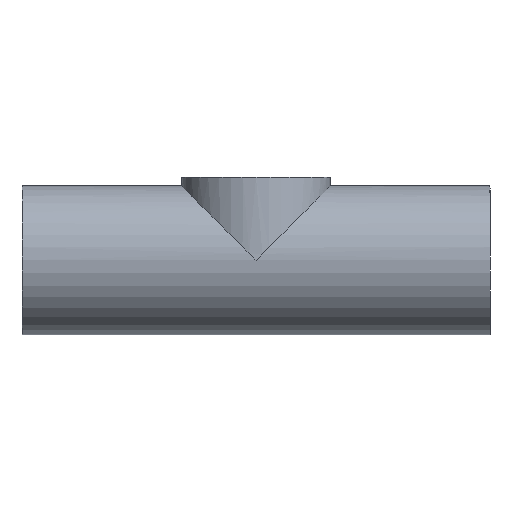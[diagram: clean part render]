
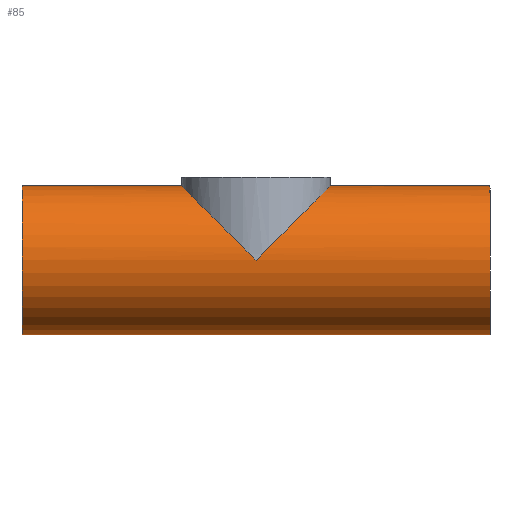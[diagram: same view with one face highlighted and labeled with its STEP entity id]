
A CAD part, front view. The second image highlights one B-rep face of the part: STEP entity #85.
In plain terms, the highlighted cylindrical face has radius 17.5 mm (diameter 35 mm), a full revolution.
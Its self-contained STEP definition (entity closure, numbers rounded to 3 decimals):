
#21 = EDGE_CURVE('',#22,#22,#24,.T.);
#22 = VERTEX_POINT('',#23);
#23 = CARTESIAN_POINT('',(-55.,0.,-17.5));
#24 = SURFACE_CURVE('',#25,(#30,#42),.PCURVE_S1.);
#25 = CIRCLE('',#26,17.5);
#26 = AXIS2_PLACEMENT_3D('',#27,#28,#29);
#27 = CARTESIAN_POINT('',(-55.,0.,0.));
#28 = DIRECTION('',(1.,-0.,0.));
#29 = DIRECTION('',(0.,0.,-1.));
#30 = PCURVE('',#31,#36);
#31 = PLANE('',#32);
#32 = AXIS2_PLACEMENT_3D('',#33,#34,#35);
#33 = CARTESIAN_POINT('',(-55.,0.,0.));
#34 = DIRECTION('',(1.,0.,0.));
#35 = DIRECTION('',(0.,0.,-1.));
#36 = DEFINITIONAL_REPRESENTATION('',(#37),#41);
#37 = CIRCLE('',#38,17.5);
#38 = AXIS2_PLACEMENT_2D('',#39,#40);
#39 = CARTESIAN_POINT('',(0.,0.));
#40 = DIRECTION('',(1.,0.));
#41 = ( GEOMETRIC_REPRESENTATION_CONTEXT(2) 
PARAMETRIC_REPRESENTATION_CONTEXT() REPRESENTATION_CONTEXT('2D SPACE',''
  ) );
#42 = PCURVE('',#43,#48);
#43 = CYLINDRICAL_SURFACE('',#44,17.5);
#44 = AXIS2_PLACEMENT_3D('',#45,#46,#47);
#45 = CARTESIAN_POINT('',(-55.,0.,0.));
#46 = DIRECTION('',(1.,0.,0.));
#47 = DIRECTION('',(0.,0.,-1.));
#48 = DEFINITIONAL_REPRESENTATION('',(#49),#53);
#49 = LINE('',#50,#51);
#50 = CARTESIAN_POINT('',(0.,0.));
#51 = VECTOR('',#52,1.);
#52 = DIRECTION('',(1.,0.));
#53 = ( GEOMETRIC_REPRESENTATION_CONTEXT(2) 
PARAMETRIC_REPRESENTATION_CONTEXT() REPRESENTATION_CONTEXT('2D SPACE',''
  ) );
#85 = ADVANCED_FACE('',(#86,#140),#43,.T.);
#86 = FACE_BOUND('',#87,.T.);
#87 = EDGE_LOOP('',(#88,#111,#138,#139));
#88 = ORIENTED_EDGE('',*,*,#89,.T.);
#89 = EDGE_CURVE('',#22,#90,#92,.T.);
#90 = VERTEX_POINT('',#91);
#91 = CARTESIAN_POINT('',(55.,0.,-17.5));
#92 = SEAM_CURVE('',#93,(#97,#104),.PCURVE_S1.);
#93 = LINE('',#94,#95);
#94 = CARTESIAN_POINT('',(-55.,0.,-17.5));
#95 = VECTOR('',#96,1.);
#96 = DIRECTION('',(1.,0.,0.));
#97 = PCURVE('',#43,#98);
#98 = DEFINITIONAL_REPRESENTATION('',(#99),#103);
#99 = LINE('',#100,#101);
#100 = CARTESIAN_POINT('',(6.283,-0.));
#101 = VECTOR('',#102,1.);
#102 = DIRECTION('',(0.,1.));
#103 = ( GEOMETRIC_REPRESENTATION_CONTEXT(2) 
PARAMETRIC_REPRESENTATION_CONTEXT() REPRESENTATION_CONTEXT('2D SPACE',''
  ) );
#104 = PCURVE('',#43,#105);
#105 = DEFINITIONAL_REPRESENTATION('',(#106),#110);
#106 = LINE('',#107,#108);
#107 = CARTESIAN_POINT('',(0.,-0.));
#108 = VECTOR('',#109,1.);
#109 = DIRECTION('',(0.,1.));
#110 = ( GEOMETRIC_REPRESENTATION_CONTEXT(2) 
PARAMETRIC_REPRESENTATION_CONTEXT() REPRESENTATION_CONTEXT('2D SPACE',''
  ) );
#111 = ORIENTED_EDGE('',*,*,#112,.F.);
#112 = EDGE_CURVE('',#90,#90,#113,.T.);
#113 = SURFACE_CURVE('',#114,(#119,#126),.PCURVE_S1.);
#114 = CIRCLE('',#115,17.5);
#115 = AXIS2_PLACEMENT_3D('',#116,#117,#118);
#116 = CARTESIAN_POINT('',(55.,0.,0.));
#117 = DIRECTION('',(1.,-0.,0.));
#118 = DIRECTION('',(0.,0.,-1.));
#119 = PCURVE('',#43,#120);
#120 = DEFINITIONAL_REPRESENTATION('',(#121),#125);
#121 = LINE('',#122,#123);
#122 = CARTESIAN_POINT('',(0.,110.));
#123 = VECTOR('',#124,1.);
#124 = DIRECTION('',(1.,0.));
#125 = ( GEOMETRIC_REPRESENTATION_CONTEXT(2) 
PARAMETRIC_REPRESENTATION_CONTEXT() REPRESENTATION_CONTEXT('2D SPACE',''
  ) );
#126 = PCURVE('',#127,#132);
#127 = PLANE('',#128);
#128 = AXIS2_PLACEMENT_3D('',#129,#130,#131);
#129 = CARTESIAN_POINT('',(55.,0.,0.));
#130 = DIRECTION('',(1.,0.,0.));
#131 = DIRECTION('',(0.,0.,-1.));
#132 = DEFINITIONAL_REPRESENTATION('',(#133),#137);
#133 = CIRCLE('',#134,17.5);
#134 = AXIS2_PLACEMENT_2D('',#135,#136);
#135 = CARTESIAN_POINT('',(0.,0.));
#136 = DIRECTION('',(1.,0.));
#137 = ( GEOMETRIC_REPRESENTATION_CONTEXT(2) 
PARAMETRIC_REPRESENTATION_CONTEXT() REPRESENTATION_CONTEXT('2D SPACE',''
  ) );
#138 = ORIENTED_EDGE('',*,*,#89,.F.);
#139 = ORIENTED_EDGE('',*,*,#21,.T.);
#140 = FACE_BOUND('',#141,.T.);
#141 = EDGE_LOOP('',(#142,#189,#225));
#142 = ORIENTED_EDGE('',*,*,#143,.F.);
#143 = EDGE_CURVE('',#144,#146,#148,.T.);
#144 = VERTEX_POINT('',#145);
#145 = CARTESIAN_POINT('',(0.,17.5,0.));
#146 = VERTEX_POINT('',#147);
#147 = CARTESIAN_POINT('',(0.,-17.5,0.));
#148 = SURFACE_CURVE('',#149,(#154,#169),.PCURVE_S1.);
#149 = ELLIPSE('',#150,24.749,17.5);
#150 = AXIS2_PLACEMENT_3D('',#151,#152,#153);
#151 = CARTESIAN_POINT('',(0.,0.,0.));
#152 = DIRECTION('',(0.707,-0.,0.707));
#153 = DIRECTION('',(0.707,0.,-0.707));
#154 = PCURVE('',#43,#155);
#155 = DEFINITIONAL_REPRESENTATION('',(#156),#168);
#156 = B_SPLINE_CURVE_WITH_KNOTS('',10,(#157,#158,#159,#160,#161,#162,
    #163,#164,#165,#166,#167),.UNSPECIFIED.,.F.,.F.,(11,11),(
    1.571,4.712),.PIECEWISE_BEZIER_KNOTS.);
#157 = CARTESIAN_POINT('',(1.571,55.));
#158 = CARTESIAN_POINT('',(1.885,49.502));
#159 = CARTESIAN_POINT('',(2.199,44.004));
#160 = CARTESIAN_POINT('',(2.513,39.26));
#161 = CARTESIAN_POINT('',(2.827,36.023));
#162 = CARTESIAN_POINT('',(3.142,34.87));
#163 = CARTESIAN_POINT('',(3.456,36.023));
#164 = CARTESIAN_POINT('',(3.77,39.26));
#165 = CARTESIAN_POINT('',(4.084,44.004));
#166 = CARTESIAN_POINT('',(4.398,49.502));
#167 = CARTESIAN_POINT('',(4.712,55.));
#168 = ( GEOMETRIC_REPRESENTATION_CONTEXT(2) 
PARAMETRIC_REPRESENTATION_CONTEXT() REPRESENTATION_CONTEXT('2D SPACE',''
  ) );
#169 = PCURVE('',#170,#175);
#170 = CYLINDRICAL_SURFACE('',#171,17.5);
#171 = AXIS2_PLACEMENT_3D('',#172,#173,#174);
#172 = CARTESIAN_POINT('',(0.,0.,0.));
#173 = DIRECTION('',(0.,0.,1.));
#174 = DIRECTION('',(1.,0.,0.));
#175 = DEFINITIONAL_REPRESENTATION('',(#176),#188);
#176 = B_SPLINE_CURVE_WITH_KNOTS('',10,(#177,#178,#179,#180,#181,#182,
    #183,#184,#185,#186,#187),.UNSPECIFIED.,.F.,.F.,(11,11),(
    1.571,4.712),.PIECEWISE_BEZIER_KNOTS.);
#177 = CARTESIAN_POINT('',(1.571,0.));
#178 = CARTESIAN_POINT('',(1.885,5.498));
#179 = CARTESIAN_POINT('',(2.199,10.996));
#180 = CARTESIAN_POINT('',(2.513,15.74));
#181 = CARTESIAN_POINT('',(2.827,18.977));
#182 = CARTESIAN_POINT('',(3.142,20.13));
#183 = CARTESIAN_POINT('',(3.456,18.977));
#184 = CARTESIAN_POINT('',(3.77,15.74));
#185 = CARTESIAN_POINT('',(4.084,10.996));
#186 = CARTESIAN_POINT('',(4.398,5.498));
#187 = CARTESIAN_POINT('',(4.712,0.));
#188 = ( GEOMETRIC_REPRESENTATION_CONTEXT(2) 
PARAMETRIC_REPRESENTATION_CONTEXT() REPRESENTATION_CONTEXT('2D SPACE',''
  ) );
#189 = ORIENTED_EDGE('',*,*,#190,.T.);
#190 = EDGE_CURVE('',#144,#191,#193,.T.);
#191 = VERTEX_POINT('',#192);
#192 = CARTESIAN_POINT('',(17.5,0.,17.5));
#193 = SURFACE_CURVE('',#194,(#199,#212),.PCURVE_S1.);
#194 = ELLIPSE('',#195,24.749,17.5);
#195 = AXIS2_PLACEMENT_3D('',#196,#197,#198);
#196 = CARTESIAN_POINT('',(0.,0.,0.));
#197 = DIRECTION('',(0.707,0.,-0.707));
#198 = DIRECTION('',(0.707,0.,0.707));
#199 = PCURVE('',#43,#200);
#200 = DEFINITIONAL_REPRESENTATION('',(#201),#211);
#201 = B_SPLINE_CURVE_WITH_KNOTS('',8,(#202,#203,#204,#205,#206,#207,
    #208,#209,#210),.UNSPECIFIED.,.F.,.F.,(9,9),(4.712,
    6.283),.PIECEWISE_BEZIER_KNOTS.);
#202 = CARTESIAN_POINT('',(1.571,55.));
#203 = CARTESIAN_POINT('',(1.767,58.436));
#204 = CARTESIAN_POINT('',(1.963,61.872));
#205 = CARTESIAN_POINT('',(2.16,65.106));
#206 = CARTESIAN_POINT('',(2.356,67.937));
#207 = CARTESIAN_POINT('',(2.553,70.187));
#208 = CARTESIAN_POINT('',(2.749,71.729));
#209 = CARTESIAN_POINT('',(2.945,72.5));
#210 = CARTESIAN_POINT('',(3.142,72.5));
#211 = ( GEOMETRIC_REPRESENTATION_CONTEXT(2) 
PARAMETRIC_REPRESENTATION_CONTEXT() REPRESENTATION_CONTEXT('2D SPACE',''
  ) );
#212 = PCURVE('',#170,#213);
#213 = DEFINITIONAL_REPRESENTATION('',(#214),#224);
#214 = B_SPLINE_CURVE_WITH_KNOTS('',8,(#215,#216,#217,#218,#219,#220,
    #221,#222,#223),.UNSPECIFIED.,.F.,.F.,(9,9),(4.712,
    6.283),.PIECEWISE_BEZIER_KNOTS.);
#215 = CARTESIAN_POINT('',(1.571,0.));
#216 = CARTESIAN_POINT('',(1.374,3.436));
#217 = CARTESIAN_POINT('',(1.178,6.872));
#218 = CARTESIAN_POINT('',(0.982,10.106));
#219 = CARTESIAN_POINT('',(0.785,12.937));
#220 = CARTESIAN_POINT('',(0.589,15.187));
#221 = CARTESIAN_POINT('',(0.393,16.729));
#222 = CARTESIAN_POINT('',(0.196,17.5));
#223 = CARTESIAN_POINT('',(0.,17.5));
#224 = ( GEOMETRIC_REPRESENTATION_CONTEXT(2) 
PARAMETRIC_REPRESENTATION_CONTEXT() REPRESENTATION_CONTEXT('2D SPACE',''
  ) );
#225 = ORIENTED_EDGE('',*,*,#226,.T.);
#226 = EDGE_CURVE('',#191,#146,#227,.T.);
#227 = SURFACE_CURVE('',#228,(#233,#246),.PCURVE_S1.);
#228 = ELLIPSE('',#229,24.749,17.5);
#229 = AXIS2_PLACEMENT_3D('',#230,#231,#232);
#230 = CARTESIAN_POINT('',(0.,0.,0.));
#231 = DIRECTION('',(0.707,0.,-0.707));
#232 = DIRECTION('',(0.707,0.,0.707));
#233 = PCURVE('',#43,#234);
#234 = DEFINITIONAL_REPRESENTATION('',(#235),#245);
#235 = B_SPLINE_CURVE_WITH_KNOTS('',8,(#236,#237,#238,#239,#240,#241,
    #242,#243,#244),.UNSPECIFIED.,.F.,.F.,(9,9),(0.,1.571),
  .PIECEWISE_BEZIER_KNOTS.);
#236 = CARTESIAN_POINT('',(3.142,72.5));
#237 = CARTESIAN_POINT('',(3.338,72.5));
#238 = CARTESIAN_POINT('',(3.534,71.729));
#239 = CARTESIAN_POINT('',(3.731,70.187));
#240 = CARTESIAN_POINT('',(3.927,67.937));
#241 = CARTESIAN_POINT('',(4.123,65.106));
#242 = CARTESIAN_POINT('',(4.32,61.872));
#243 = CARTESIAN_POINT('',(4.516,58.436));
#244 = CARTESIAN_POINT('',(4.712,55.));
#245 = ( GEOMETRIC_REPRESENTATION_CONTEXT(2) 
PARAMETRIC_REPRESENTATION_CONTEXT() REPRESENTATION_CONTEXT('2D SPACE',''
  ) );
#246 = PCURVE('',#170,#247);
#247 = DEFINITIONAL_REPRESENTATION('',(#248),#258);
#248 = B_SPLINE_CURVE_WITH_KNOTS('',8,(#249,#250,#251,#252,#253,#254,
    #255,#256,#257),.UNSPECIFIED.,.F.,.F.,(9,9),(0.,1.571),
  .PIECEWISE_BEZIER_KNOTS.);
#249 = CARTESIAN_POINT('',(6.283,17.5));
#250 = CARTESIAN_POINT('',(6.087,17.5));
#251 = CARTESIAN_POINT('',(5.89,16.729));
#252 = CARTESIAN_POINT('',(5.694,15.187));
#253 = CARTESIAN_POINT('',(5.498,12.937));
#254 = CARTESIAN_POINT('',(5.301,10.106));
#255 = CARTESIAN_POINT('',(5.105,6.872));
#256 = CARTESIAN_POINT('',(4.909,3.436));
#257 = CARTESIAN_POINT('',(4.712,0.));
#258 = ( GEOMETRIC_REPRESENTATION_CONTEXT(2) 
PARAMETRIC_REPRESENTATION_CONTEXT() REPRESENTATION_CONTEXT('2D SPACE',''
  ) );
